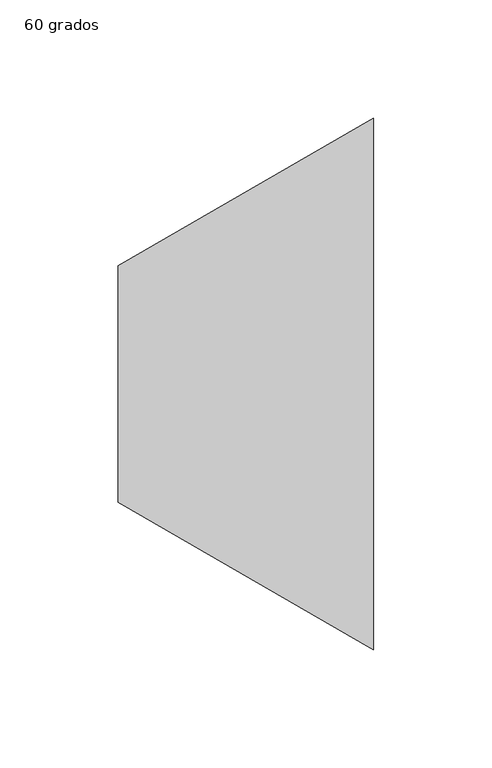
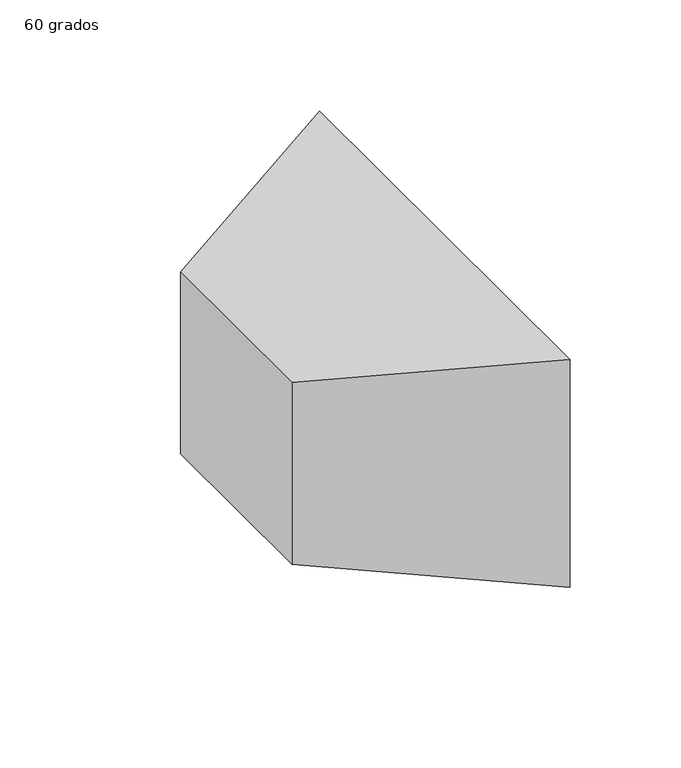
"""IFC4 building model written with IfcOpenShell, lengths in millimetres: duct fitting geometry, M_Transición rectangular - Ángulo : 60 grados."""

import ifcopenshell
import ifcopenshell.guid

model = None  # the IFC model being written
_history = None  # IfcOwnerHistory: only IFC2X3 demands one
_inside = {}  # id of a spatial element -> (the spatial element, [elements in it])
_under = {}  # id of a project, library or spatial element -> (it, [spatial elements below it])
_declared = {}  # id of a project -> (the project, [libraries it declares])
_typed = {}  # id of a type object -> (the type object, [elements of that type])
_made_of = {}  # id of a material, layer set ... -> (it, [elements and type objects made of it])


def new_model(schema):
    """Start an empty IFC model of exactly this schema.

    Asked for "IFC4X3", IfcOpenShell would pick the latest addendum, in which some entities
    have other attributes; the version numbers below select the first issue.
    IFC2X3 requires an IfcOwnerHistory on every rooted entity: one is made here for all.
    """
    global model, _history
    if schema == "IFC4X3":
        model = ifcopenshell.file(schema_version=(4, 3, 0, 0))
    else:
        model = ifcopenshell.file(schema=schema)
    _inside.clear()
    _under.clear()
    _declared.clear()
    _typed.clear()
    _made_of.clear()
    _history = None
    if model.schema == "IFC2X3":
        org = make("IfcOrganization", Name="unknown")
        user = make(
            "IfcPersonAndOrganization",
            ThePerson=make("IfcPerson", FamilyName="unknown"),
            TheOrganization=org,
        )
        app = make(
            "IfcApplication",
            ApplicationDeveloper=org,
            Version="unknown",
            ApplicationFullName="unknown",
            ApplicationIdentifier="unknown",
        )
        _history = make(
            "IfcOwnerHistory",
            OwningUser=user,
            OwningApplication=app,
            ChangeAction="ADDED",
            CreationDate=0,
        )
    return model


def make(cls, **values):
    """One entity of the class cls with the attributes given. An attribute that is None is left unset."""
    return model.create_entity(
        cls, **{name: value for name, value in values.items() if value is not None}
    )


def rooted(cls, **values):
    """An entity with a GlobalId (a new one), such as an element, a storey or a relation."""
    return make(cls, GlobalId=ifcopenshell.guid.new(), OwnerHistory=_history, **values)


def si_unit(unit_type, name, prefix=None):
    """IfcSIUnit, for example si_unit("LENGTHUNIT", "METRE", prefix="MILLI")."""
    return make("IfcSIUnit", UnitType=unit_type, Prefix=prefix, Name=name)


def assignment(units):
    """IfcUnitAssignment: the units of a project."""
    return None if units is None else make("IfcUnitAssignment", Units=units)


def point(xyz):
    """IfcCartesianPoint."""
    return None if xyz is None else make("IfcCartesianPoint", Coordinates=xyz)


def direction(xyz):
    """IfcDirection."""
    return None if xyz is None else make("IfcDirection", DirectionRatios=xyz)


def frame(location, z_axis=None, x_axis=None):
    """IfcAxis2Placement3D, a coordinate frame: its origin and axes. An axis left out is left unset."""
    return make(
        "IfcAxis2Placement3D",
        Location=point(location),
        Axis=direction(z_axis),
        RefDirection=direction(x_axis),
    )


def origin():
    """The frame at (0, 0, 0) with its axes left unset."""
    return frame((0.0, 0.0, 0.0))


def place(relative_to, where):
    """IfcLocalPlacement: puts the frame where relative to a parent placement (None: the world)."""
    return make(
        "IfcLocalPlacement", PlacementRelTo=relative_to, RelativePlacement=where
    )


def context(
    kind, dimensions, precision=None, world=None, true_north=None, identifier=None
):
    """IfcGeometricRepresentationContext, for example the 3D "Model" context."""
    return make(
        "IfcGeometricRepresentationContext",
        ContextIdentifier=identifier,
        ContextType=kind,
        CoordinateSpaceDimension=dimensions,
        Precision=precision,
        WorldCoordinateSystem=world,
        TrueNorth=true_north,
    )


def project(units=None, contexts=None):
    """IfcProject with its units and contexts."""
    return rooted(
        "IfcProject",
        Name="project",
        RepresentationContexts=contexts,
        UnitsInContext=assignment(units),
    )


def spatial(cls, under=None, at=None, **own):
    """A site, building, storey or space (cls), placed at a placement, below another one or the project."""
    s = rooted(cls, ObjectPlacement=at, **own)
    if under is not None:
        _under.setdefault(under.id(), (under, []))[1].append(s)
    return s


def faces_of(points, faces, orient=None, outer=None):
    """IfcFace entities. A face is a list of loops; a loop is a list of indices into points, from 0.

    orient and outer hold one flag for each loop. By default every Orientation is true, the
    first loop of a face is its IfcFaceOuterBound and the others are IfcFaceBound.
    """
    made = []
    for i, loops in enumerate(faces):
        bounds = []
        for j, loop in enumerate(loops):
            is_outer = j == 0 if outer is None else outer[i][j]
            bounds.append(
                make(
                    "IfcFaceOuterBound" if is_outer else "IfcFaceBound",
                    Bound=make("IfcPolyLoop", Polygon=[points[k] for k in loop]),
                    Orientation=True if orient is None else orient[i][j],
                )
            )
        made.append(make("IfcFace", Bounds=bounds))
    return made


def faceted_brep(points, faces, orient=None, outer=None, voids=None):
    """IfcFacetedBrep: a solid bounded by flat faces; with voids (closed shells), ...WithVoids."""
    shared = [point(p) for p in points]
    hull = make("IfcClosedShell", CfsFaces=faces_of(shared, faces, orient, outer))
    if voids is None:
        return make("IfcFacetedBrep", Outer=hull)
    return make(
        "IfcFacetedBrepWithVoids",
        Outer=hull,
        Voids=[
            make(cls, CfsFaces=faces_of(shared, fs, o, b)) for cls, fs, o, b in voids
        ],
    )


def shape(context_of_items, identifier, shape_type, items):
    """IfcShapeRepresentation: the items that make up one representation, for example the "Body"."""
    return make(
        "IfcShapeRepresentation",
        ContextOfItems=context_of_items,
        RepresentationIdentifier=identifier,
        RepresentationType=shape_type,
        Items=items,
    )


def source(mapping_origin, context_of_items, identifier, shape_type, items):
    """IfcRepresentationMap: a shape defined once, which mapped items show again and again."""
    return make(
        "IfcRepresentationMap",
        MappingOrigin=mapping_origin,
        MappedRepresentation=shape(context_of_items, identifier, shape_type, items),
    )


def transform(
    local_origin,
    x_axis=None,
    y_axis=None,
    z_axis=None,
    scale=None,
    scale2=None,
    scale3=None,
    uniform=True,
):
    """IfcCartesianTransformationOperator3D, or its non-uniform kind. x_axis, y_axis, z_axis: its Axis1, 2, 3."""
    if uniform:
        return make(
            "IfcCartesianTransformationOperator3D",
            Axis1=direction(x_axis),
            Axis2=direction(y_axis),
            LocalOrigin=point(local_origin),
            Scale=scale,
            Axis3=direction(z_axis),
        )
    return make(
        "IfcCartesianTransformationOperator3DnonUniform",
        Axis1=direction(x_axis),
        Axis2=direction(y_axis),
        LocalOrigin=point(local_origin),
        Scale=scale,
        Axis3=direction(z_axis),
        Scale2=scale2,
        Scale3=scale3,
    )


def mapped(mapping_source, mapping_target):
    """IfcMappedItem: shows the shape of a source again, moved by a transform."""
    return make(
        "IfcMappedItem", MappingSource=mapping_source, MappingTarget=mapping_target
    )


def made_of(thing, what):
    """Note that an element or type object is made of a material, layer set ...; save() writes the relation."""
    if what is not None:
        _made_of.setdefault(what.id(), (what, []))[1].append(thing)
    return thing


def element(
    cls,
    number,
    at=None,
    inside=None,
    cuts=None,
    type_object=None,
    material=None,
    context=None,
    identifier="Body",
    shape_type=None,
    held_by="IfcProductDefinitionShape",
    body=None,
    shapes=None,
    **own,
):
    """One element of the class cls, such as IfcWall. Its Tag is "e" and its number.

    at: its placement. inside: the storey or other place that contains it. cuts: it is an
    opening in that element (IfcRelVoidsElement). A single representation is given by context,
    identifier, shape_type and body (its items); several are given by shapes. held_by: the class
    of the entity that holds the representations. save() writes the other relations.
    """
    e = rooted(cls, Tag="e%d" % number, ObjectPlacement=at, **own)
    if body is not None:
        shapes = [shape(context, identifier, shape_type, body)]
    if shapes is not None:
        e.Representation = make(held_by, Representations=shapes)
    if inside is not None:
        _inside.setdefault(inside.id(), (inside, []))[1].append(e)
    if cuts is not None:
        rooted(
            "IfcRelVoidsElement", RelatingBuildingElement=cuts, RelatedOpeningElement=e
        )
    if type_object is not None:
        _typed.setdefault(type_object.id(), (type_object, []))[1].append(e)
    return made_of(e, material)


def aggregate(whole, parts):
    """IfcRelAggregates: a whole, such as a stair, and the parts it consists of."""
    return rooted("IfcRelAggregates", RelatingObject=whole, RelatedObjects=parts)


def save(model, path):
    """Write the relations noted so far, then the file.

    IfcRelAggregates (storeys below a building ...), IfcRelContainedInSpatialStructure (elements
    in a storey), IfcRelDefinesByType, IfcRelAssociatesMaterial and IfcRelDeclares: one each for
    every whole, place, type object, material and project.
    """
    for whole, parts in _under.values():
        aggregate(whole, parts)
    for where, things in _inside.values():
        rooted(
            "IfcRelContainedInSpatialStructure",
            RelatedElements=things,
            RelatingStructure=where,
        )
    for kind, things in _typed.values():
        rooted("IfcRelDefinesByType", RelatedObjects=things, RelatingType=kind)
    for what, things in _made_of.values():
        rooted("IfcRelAssociatesMaterial", RelatedObjects=things, RelatingMaterial=what)
    for by, libraries in _declared.values():
        rooted("IfcRelDeclares", RelatingContext=by, RelatedDefinitions=libraries)
    model.write(path)


def duct_fitting_60_grados_7ffb1b4e(model_context):
    return source(origin(), model_context, "Body", "Brep", [
        faceted_brep([(108.2531755, -112.5, 62.5), (108.2531755, -112.5, -62.5), (108.2531755, 112.5, -62.5), (108.2531755, 112.5, 62.5), (0.0, -50.0, 50.0), (0.0, 50.0, 50.0), (0.0, 50.0, -50.0), (0.0, -50.0, -50.0)], [[[0, 1, 2, 3]], [[4, 5, 6, 7]], [[4, 7, 1, 0]], [[7, 6, 2, 1]], [[6, 5, 3, 2]], [[5, 4, 0, 3]]]),
    ])


if __name__ == "__main__":
    model = new_model("IFC4")
    model_context = context("Model", 3, world=origin())
    ifc_project = project(units=[si_unit("LENGTHUNIT", "METRE", prefix="MILLI")], contexts=[model_context])
    site = spatial("IfcSite", under=ifc_project)
    building = spatial("IfcBuilding", under=site)
    placement = place(None, origin())
    duct_fitting_60_grados_shape = duct_fitting_60_grados_7ffb1b4e(model_context)
    element("IfcDuctFitting", 1, ObjectType="M_Transición rectangular - Ángulo : 60 grados", at=placement, inside=building, context=model_context, shape_type="MappedRepresentation", body=[
        mapped(duct_fitting_60_grados_shape, transform((0.0, 0.0, 0.0), x_axis=(1.0, 0.0, 0.0), y_axis=(0.0, 1.0, 0.0), z_axis=(0.0, 0.0, 1.0))),
    ])
    save(model, "model.ifc")
